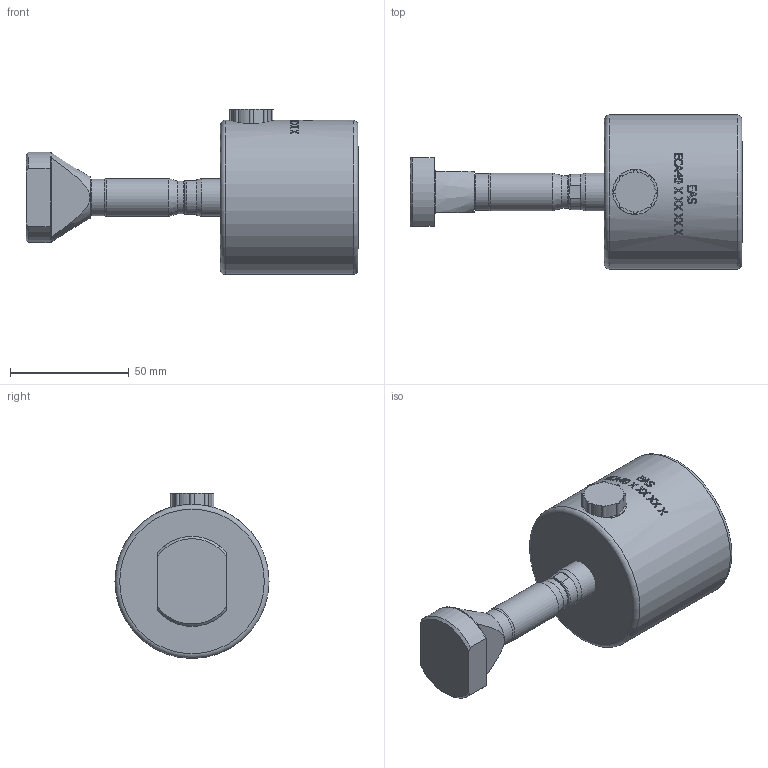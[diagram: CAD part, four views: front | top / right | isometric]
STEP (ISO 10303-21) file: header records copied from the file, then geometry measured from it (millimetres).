
FILE_DESCRIPTION(/* description */ (''),/* implementation_level */ '2;1');
FILE_NAME(/* name */ 'S:\EASCN Vault\Designs\Standard Part\T-SLOT\PULL CYLINDERS\ECA-40\ECA-40-18-XX_(20200416).stp',/* time_stamp */ '2020-04-16T13:22:13+08:00',/* author */ ('yue.yang'),/* organization */ (''),/* preprocessor_version */ 'ST-DEVELOPER v17',/* originating_system */ 'Autodesk Inventor 2019',/* authorisation */ '');
FILE_SCHEMA (('AUTOMOTIVE_DESIGN { 1 0 10303 214 3 1 1 }'));
Length unit declared in the file: millimetre
Products named in the file (1): ECA-40-18-XX_Shrinkwrap_1
Bounding box: 140 x 65 x 69.6 mm (x, y, z)
Volume: 259168.8 mm3; surface area: 40939.4 mm2
Topology: 6 solids, 6 shells, 317 faces, 861 edges, 583 vertices
Faces by surface type: plane 113, bspline 106, cylinder 64, cone 22, torus 12
Full cylindrical faces by diameter (mm): 3.6 x2, 9.8 x1, 10.1 x1, 10.8 x1, 11.445 x1, 12 x2, 13.157 x1, 13.9 x1, 15.475 x1, 15.5 x1, 15.975 x1, 16 x1, 24.6 x1, 28 x1, 33 x1, 34 x1, 39.9 x2, 45 x1, 65 x1
Entity records: 29400 total; most frequent: CARTESIAN_POINT 21676, ORIENTED_EDGE 1718, DIRECTION 1225, EDGE_CURVE 859, VERTEX_POINT 583, AXIS2_PLACEMENT_3D 470, EDGE_LOOP 350, FACE_OUTER_BOUND 317
